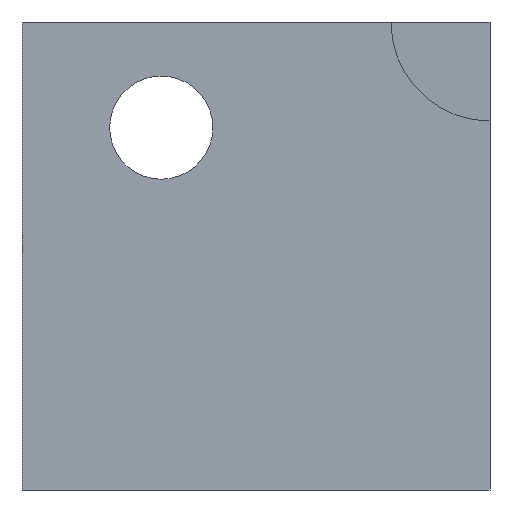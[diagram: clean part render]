
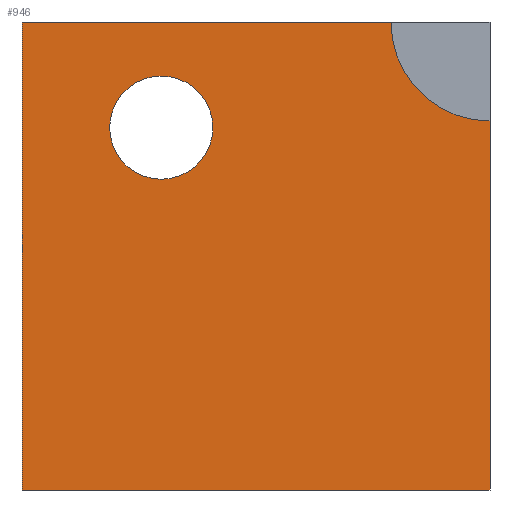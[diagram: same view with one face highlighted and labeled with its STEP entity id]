
A CAD part, front view. The second image highlights one B-rep face of the part: STEP entity #946.
In plain terms, the highlighted planar face has unit normal (0, -1, 0).
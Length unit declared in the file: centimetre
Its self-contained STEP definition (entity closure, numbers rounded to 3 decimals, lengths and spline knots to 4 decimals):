
#2 = FACE_BOUND ( 'NONE', #807, .T. ) ;
#70 = LINE ( 'NONE', #329, #1076 ) ;
#71 = CARTESIAN_POINT ( 'NONE',  ( 297.5161, 0., 884.6 ) ) ;
#80 = CARTESIAN_POINT ( 'NONE',  ( 297.5161, 0., 664.0743 ) ) ;
#82 = CARTESIAN_POINT ( 'NONE',  ( 1000., 0., 1000. ) ) ;
#84 = DIRECTION ( 'NONE',  ( 0., 1., 0. ) ) ;
#97 = CARTESIAN_POINT ( 'NONE',  ( 297.5161, 0., 774.3372 ) ) ;
#104 = CARTESIAN_POINT ( 'NONE',  ( 0., 0., 1000. ) ) ;
#146 = ORIENTED_EDGE ( 'NONE', *, *, #332, .T. ) ;
#158 = DIRECTION ( 'NONE',  ( 0., -1., 0. ) ) ;
#195 = ORIENTED_EDGE ( 'NONE', *, *, #887, .T. ) ;
#221 = DIRECTION ( 'NONE',  ( 1., 0., 0. ) ) ;
#236 = CIRCLE ( 'NONE', #1071, 110.2628 ) ;
#241 = AXIS2_PLACEMENT_3D ( 'NONE', #82, #158, #605 ) ;
#272 = ORIENTED_EDGE ( 'NONE', *, *, #978, .T. ) ;
#274 = EDGE_LOOP ( 'NONE', ( #478, #604, #487, #146, #195 ) ) ;
#276 = AXIS2_PLACEMENT_3D ( 'NONE', #104, #84, #1060 ) ;
#286 = CARTESIAN_POINT ( 'NONE',  ( 297.5161, 0., 774.3372 ) ) ;
#297 = VERTEX_POINT ( 'NONE', #590 ) ;
#303 = CARTESIAN_POINT ( 'NONE',  ( 0., 0., 1000. ) ) ;
#319 = CARTESIAN_POINT ( 'NONE',  ( 0., 0., 1000. ) ) ;
#329 = CARTESIAN_POINT ( 'NONE',  ( 0., 0., 0. ) ) ;
#332 = EDGE_CURVE ( 'NONE', #297, #738, #1021, .T. ) ;
#377 = DIRECTION ( 'NONE',  ( 0., 1., 0. ) ) ;
#380 = EDGE_CURVE ( 'NONE', #1119, #904, #491, .T. ) ;
#424 = VERTEX_POINT ( 'NONE', #71 ) ;
#426 = VECTOR ( 'NONE', #221, 100. ) ;
#429 = DIRECTION ( 'NONE',  ( 1., 0., 0. ) ) ;
#434 = CARTESIAN_POINT ( 'NONE',  ( 1000., 0., 1000. ) ) ;
#456 = DIRECTION ( 'NONE',  ( 0., 0., 1. ) ) ;
#471 = ORIENTED_EDGE ( 'NONE', *, *, #970, .T. ) ;
#478 = ORIENTED_EDGE ( 'NONE', *, *, #824, .F. ) ;
#487 = ORIENTED_EDGE ( 'NONE', *, *, #1025, .F. ) ;
#491 = CIRCLE ( 'NONE', #241, 211.664 ) ;
#528 = VECTOR ( 'NONE', #584, 100. ) ;
#529 = DIRECTION ( 'NONE',  ( 0., 1., 0. ) ) ;
#545 = CARTESIAN_POINT ( 'NONE',  ( 1000., 0., 788.336 ) ) ;
#575 = CARTESIAN_POINT ( 'NONE',  ( 788.336, 0., 1000. ) ) ;
#584 = DIRECTION ( 'NONE',  ( 0., 0., -1. ) ) ;
#590 = CARTESIAN_POINT ( 'NONE',  ( 0., 0., 1000. ) ) ;
#604 = ORIENTED_EDGE ( 'NONE', *, *, #380, .F. ) ;
#605 = DIRECTION ( 'NONE',  ( 0., 0., -1. ) ) ;
#664 = LINE ( 'NONE', #319, #426 ) ;
#738 = VERTEX_POINT ( 'NONE', #742 ) ;
#742 = CARTESIAN_POINT ( 'NONE',  ( 0., 0., 0. ) ) ;
#807 = EDGE_LOOP ( 'NONE', ( #471, #272 ) ) ;
#824 = EDGE_CURVE ( 'NONE', #904, #853, #1122, .T. ) ;
#853 = VERTEX_POINT ( 'NONE', #971 ) ;
#887 = EDGE_CURVE ( 'NONE', #738, #853, #70, .T. ) ;
#893 = PLANE ( 'NONE',  #276 ) ;
#897 = VERTEX_POINT ( 'NONE', #80 ) ;
#904 = VERTEX_POINT ( 'NONE', #545 ) ;
#932 = AXIS2_PLACEMENT_3D ( 'NONE', #286, #377, #1154 ) ;
#946 = ADVANCED_FACE ( 'NONE', ( #2, #992 ), #893, .F. ) ;
#961 = DIRECTION ( 'NONE',  ( 0., 0., -1. ) ) ;
#970 = EDGE_CURVE ( 'NONE', #424, #897, #1036, .T. ) ;
#971 = CARTESIAN_POINT ( 'NONE',  ( 1000., 0., 0. ) ) ;
#978 = EDGE_CURVE ( 'NONE', #897, #424, #236, .T. ) ;
#992 = FACE_OUTER_BOUND ( 'NONE', #274, .T. ) ;
#1021 = LINE ( 'NONE', #303, #528 ) ;
#1025 = EDGE_CURVE ( 'NONE', #297, #1119, #664, .T. ) ;
#1036 = CIRCLE ( 'NONE', #932, 110.2628 ) ;
#1057 = VECTOR ( 'NONE', #961, 100. ) ;
#1060 = DIRECTION ( 'NONE',  ( 0., 0., 1. ) ) ;
#1071 = AXIS2_PLACEMENT_3D ( 'NONE', #97, #529, #456 ) ;
#1076 = VECTOR ( 'NONE', #429, 100. ) ;
#1119 = VERTEX_POINT ( 'NONE', #575 ) ;
#1122 = LINE ( 'NONE', #434, #1057 ) ;
#1154 = DIRECTION ( 'NONE',  ( 0., 0., 1. ) ) ;
